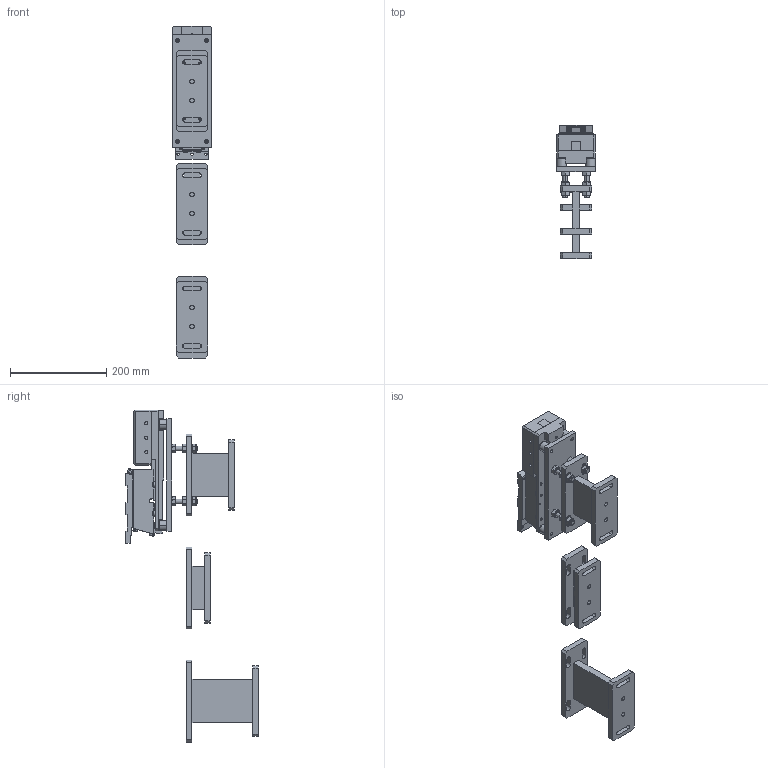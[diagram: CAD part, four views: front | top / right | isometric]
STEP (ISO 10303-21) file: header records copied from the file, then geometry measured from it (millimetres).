
FILE_DESCRIPTION (( 'STEP AP203' ), '1' );
FILE_NAME ('ZD 150 眻盄 盓殤恁饜01.STEP', '2025-06-01T05:04:48', ( '' ), ( '' ), 'SwSTEP 2.0', 'SolidWorks 2022', '' );
FILE_SCHEMA (( 'CONFIG_CONTROL_DESIGN' ));
Length unit declared in the file: millimetre
Products named in the file (1): ZD 150  眻盄 盓殤恁饜01
Bounding box: 80 x 276 x 689.84 mm (x, y, z)
Volume: 2258814.8 mm3; surface area: 459766.3 mm2
Topology: 47 solids, 51 shells, 1075 faces, 2631 edges, 1684 vertices
Faces by surface type: plane 605, cylinder 306, cone 144, torus 20
Entity records: 35556 total; most frequent: CARTESIAN_POINT 9547, DIRECTION 5437, ORIENTED_EDGE 5246, EDGE_CURVE 2623, AXIS2_PLACEMENT_3D 1934, VERTEX_POINT 1684, LINE 1569, VECTOR 1569
